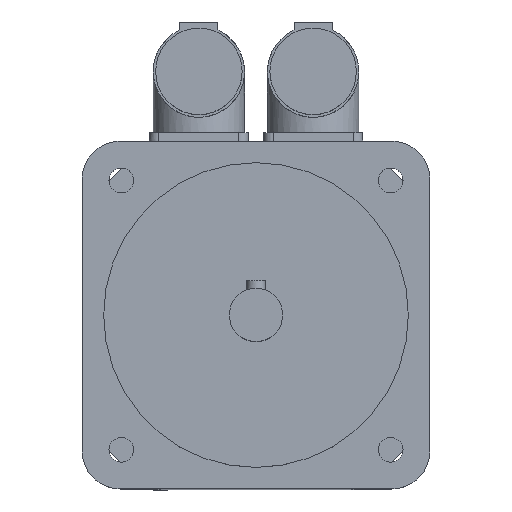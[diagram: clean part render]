
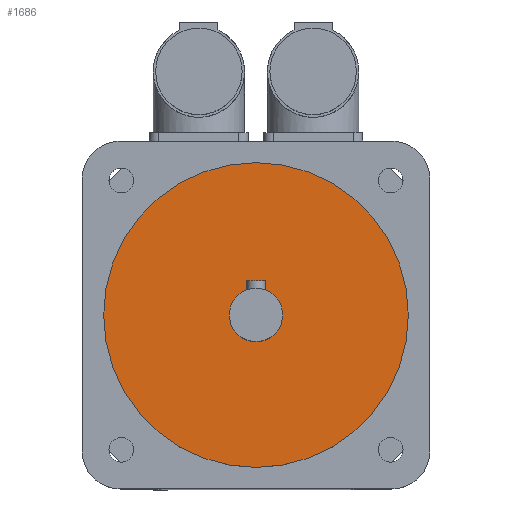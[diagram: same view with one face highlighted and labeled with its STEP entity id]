
A CAD part, top view. The second image highlights one B-rep face of the part: STEP entity #1686.
In plain terms, the highlighted planar face has unit normal (0, 0, 1).
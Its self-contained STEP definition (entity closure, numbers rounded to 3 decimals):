
#28=FACE_BOUND('',#305,.T.);
#53=CIRCLE('',#1788,7.);
#54=CIRCLE('',#1791,40.);
#202=FACE_OUTER_BOUND('',#304,.T.);
#304=EDGE_LOOP('',(#1158));
#305=EDGE_LOOP('',(#1159));
#718=VERTEX_POINT('',#2569);
#719=VERTEX_POINT('',#2573);
#892=EDGE_CURVE('',#718,#718,#53,.T.);
#893=EDGE_CURVE('',#719,#719,#54,.T.);
#1158=ORIENTED_EDGE('',*,*,#893,.T.);
#1159=ORIENTED_EDGE('',*,*,#892,.T.);
#1633=PLANE('',#1793);
#1686=ADVANCED_FACE('',(#202,#28),#1633,.T.);
#1788=AXIS2_PLACEMENT_3D('',#2570,#2000,#2001);
#1791=AXIS2_PLACEMENT_3D('',#2574,#2006,#2007);
#1793=AXIS2_PLACEMENT_3D('',#2577,#2010,#2011);
#2000=DIRECTION('center_axis',(0.,0.,-1.));
#2001=DIRECTION('ref_axis',(-1.,0.,0.));
#2006=DIRECTION('center_axis',(0.,0.,1.));
#2007=DIRECTION('ref_axis',(-1.,0.,0.));
#2010=DIRECTION('center_axis',(0.,0.,1.));
#2011=DIRECTION('ref_axis',(1.,0.,0.));
#2569=CARTESIAN_POINT('',(7.,0.,141.));
#2570=CARTESIAN_POINT('Origin',(0.,0.,141.));
#2573=CARTESIAN_POINT('',(40.,0.,141.));
#2574=CARTESIAN_POINT('Origin',(0.,0.,141.));
#2577=CARTESIAN_POINT('Origin',(0.,0.,
141.));
